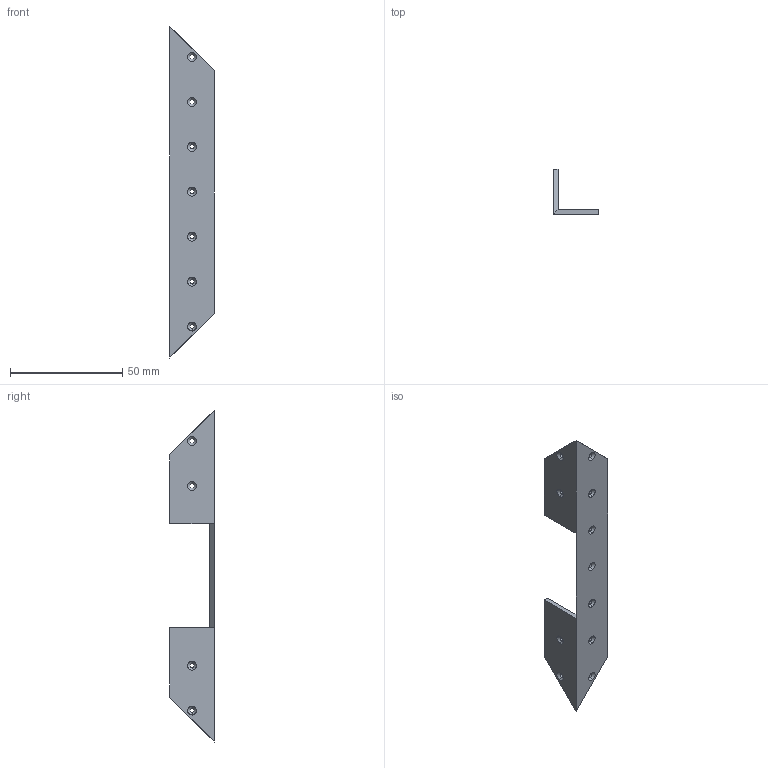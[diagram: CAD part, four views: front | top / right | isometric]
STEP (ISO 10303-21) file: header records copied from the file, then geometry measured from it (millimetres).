
FILE_DESCRIPTION (( 'STEP AP214' ), '1' );
FILE_NAME ('SC68.STEP', '2016-02-27T09:33:19', ( '' ), ( '' ), 'SwSTEP 2.0', 'SolidWorks 2012', '' );
FILE_SCHEMA (( 'AUTOMOTIVE_DESIGN' ));
Length unit declared in the file: millimetre
Products named in the file (1): SC68
Bounding box: 20 x 20 x 147.8 mm (x, y, z)
Volume: 7767.3 mm3; surface area: 8688.6 mm2
Topology: 1 solids, 1 shells, 60 faces, 158 edges, 100 vertices
Faces by surface type: cone 22, cylinder 22, plane 16
Entity records: 1952 total; most frequent: DIRECTION 360, CARTESIAN_POINT 319, ORIENTED_EDGE 316, EDGE_CURVE 158, AXIS2_PLACEMENT_3D 141, VERTEX_POINT 100, EDGE_LOOP 82, CIRCLE 80
